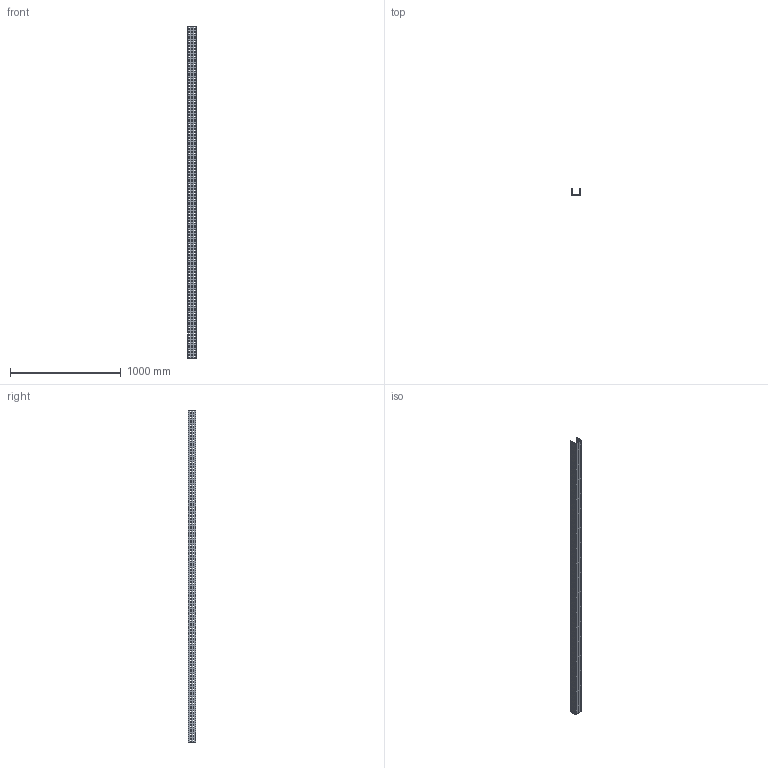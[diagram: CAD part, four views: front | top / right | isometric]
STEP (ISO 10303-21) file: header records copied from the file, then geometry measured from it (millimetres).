
FILE_DESCRIPTION (( 'STEP AP214' ), '1' );
FILE_NAME ('01B3H075.step', '2025-02-21T10:14:01', ( '' ), ( '' ), 'SwSTEP 2.0', 'SolidWorks 2023', '' );
FILE_SCHEMA (( 'AUTOMOTIVE_DESIGN' ));
Length unit declared in the file: millimetre
Products named in the file (1): 01B3H075
Bounding box: 79 x 65.5 x 3000 mm (x, y, z)
Volume: 1822800 mm3; surface area: 1176917 mm2
Topology: 1 solids, 1 shells, 2026 faces, 6072 edges, 4048 vertices
Faces by surface type: plane 2026
Entity records: 68855 total; most frequent: CARTESIAN_POINT 12147, ORIENTED_EDGE 12144, DIRECTION 10126, EDGE_CURVE 6072, LINE 6072, VECTOR 6072, VERTEX_POINT 4048, EDGE_LOOP 3034
